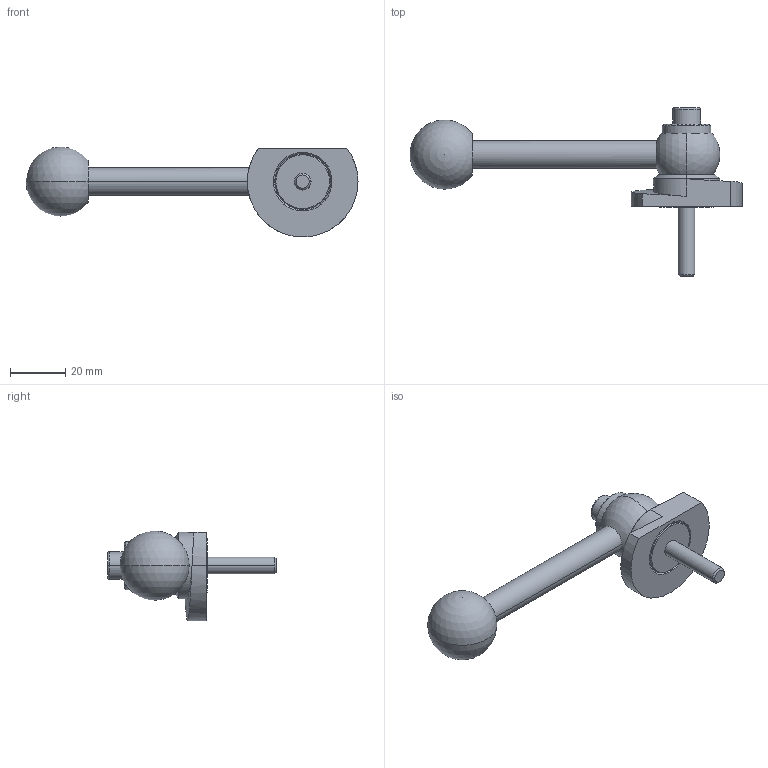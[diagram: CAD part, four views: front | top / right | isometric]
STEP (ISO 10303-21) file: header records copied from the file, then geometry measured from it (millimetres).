
FILE_DESCRIPTION (( 'STEP AP214' ), '1' );
FILE_NAME ('918.1-40-GVS-L-25.step', '2024-05-15T12:59:18', ( '' ), ( '' ), 'SwSTEP 2.0', 'SolidWorks 2022', '' );
FILE_SCHEMA (( 'AUTOMOTIVE_DESIGN' ));
Length unit declared in the file: millimetre
Products named in the file (1): 918.1-40-GVS-L-25
Bounding box: 120 x 61 x 32.5 mm (x, y, z)
Volume: 30214.7 mm3; surface area: 11210.3 mm2
Topology: 1 solids, 1 shells, 62 faces, 141 edges, 89 vertices
Faces by surface type: plane 20, cylinder 19, cone 14, sphere 4, bspline 3, torus 2
Entity records: 2003 total; most frequent: CARTESIAN_POINT 614, DIRECTION 304, ORIENTED_EDGE 262, EDGE_CURVE 131, AXIS2_PLACEMENT_3D 125, VERTEX_POINT 83, EDGE_LOOP 74, CIRCLE 65
